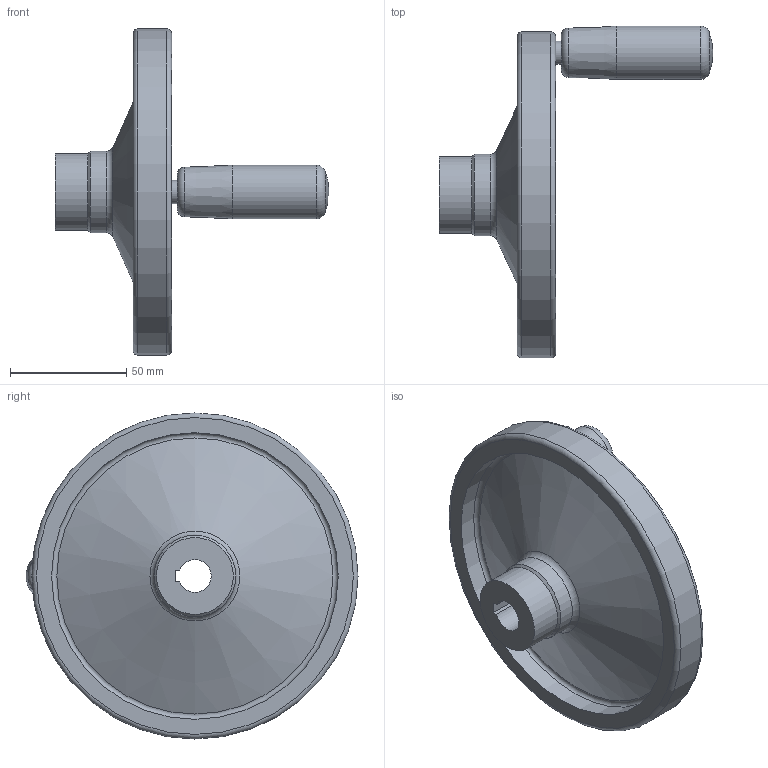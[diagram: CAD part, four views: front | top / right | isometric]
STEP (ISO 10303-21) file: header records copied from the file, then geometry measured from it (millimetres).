
FILE_DESCRIPTION( ( 'STEP AP203' ), '1' );
FILE_NAME( 'C:/Temp/Ganter_Step_05_03_2020/data/1_3/gn_321_5/gn_321_5_d/gn_321_5_d_dr/Safety handwheel GN 321.5-140-K14-D-DR.stp', '2020-03-05T10:42:40', ( 'License CC BY-ND 4.0' ), ( 'CADENAS' ), ' ', 'PARTsolutions', ' ' );
FILE_SCHEMA( ( 'CONFIG_CONTROL_DESIGN' ) );
Length unit declared in the file: millimetre
Products named in the file (1): _Safety handwheel GN 321.5-140-K14-D-DR
Bounding box: 117.5 x 142.5 x 140 mm (x, y, z)
Volume: 186609.5 mm3; surface area: 55071.2 mm2
Topology: 1 solids, 1 shells, 31 faces, 61 edges, 36 vertices
Faces by surface type: cylinder 9, plane 9, torus 7, cone 5, sphere 1
Full cylindrical faces by diameter (mm): 10 x1, 23 x1, 33 x2, 35 x1, 104 x1, 123 x1, 140 x1
Entity records: 720 total; most frequent: DIRECTION 130, CARTESIAN_POINT 105, ORIENTED_EDGE 76, AXIS2_PLACEMENT_3D 60, EDGE_LOOP 58, FACE_OUTER_BOUND 46, EDGE_CURVE 38, VERTEX_POINT 35
